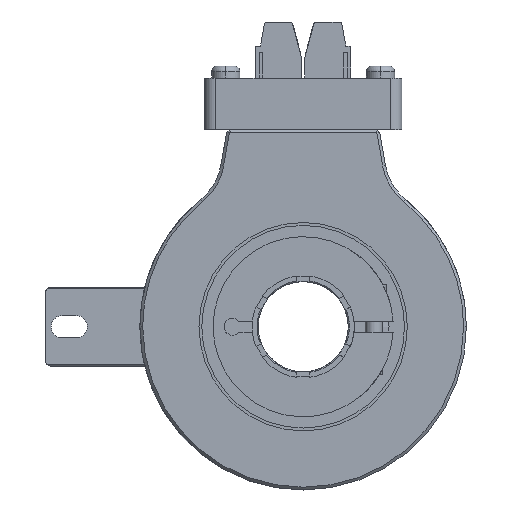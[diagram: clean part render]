
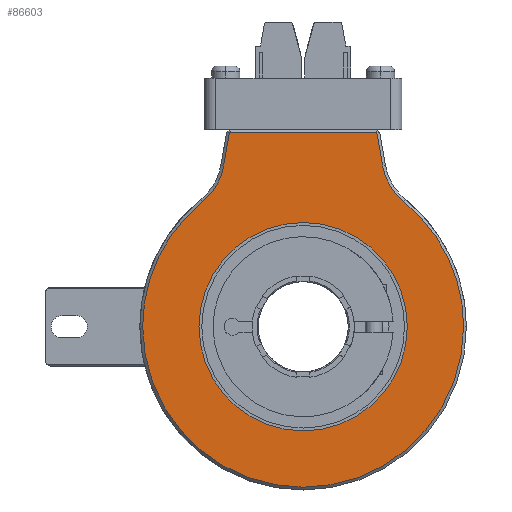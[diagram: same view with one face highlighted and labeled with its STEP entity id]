
A CAD part, left-side view. The second image highlights one B-rep face of the part: STEP entity #86603.
In plain terms, the highlighted planar face has unit normal (-1, 0, 0).
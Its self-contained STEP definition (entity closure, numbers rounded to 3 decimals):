
#126 = CIRCLE ( 'NONE', #86088, 28.5 ) ;
#1792 = ORIENTED_EDGE ( 'NONE', *, *, #42774, .T. ) ;
#4626 = DIRECTION ( 'NONE',  ( -1., 0., 0. ) ) ;
#4917 = CARTESIAN_POINT ( 'NONE',  ( -27., -18.5, 0. ) ) ;
#5710 = CARTESIAN_POINT ( 'NONE',  ( -27., 0., 0. ) ) ;
#6645 = AXIS2_PLACEMENT_3D ( 'NONE', #68694, #76194, #76676 ) ;
#6718 = AXIS2_PLACEMENT_3D ( 'NONE', #50017, #27124, #12168 ) ;
#7482 = CARTESIAN_POINT ( 'NONE',  ( -27., 0., 0. ) ) ;
#8178 = EDGE_CURVE ( 'NONE', #21539, #50496, #63558, .T. ) ;
#10104 = CARTESIAN_POINT ( 'NONE',  ( -27., 29., 0. ) ) ;
#10850 = EDGE_CURVE ( 'NONE', #76543, #13916, #24203, .T. ) ;
#11569 = FACE_BOUND ( 'NONE', #45106, .T. ) ;
#12168 = DIRECTION ( 'NONE',  ( 0., 1., 0. ) ) ;
#12201 = VERTEX_POINT ( 'NONE', #38044 ) ;
#13916 = VERTEX_POINT ( 'NONE', #4917 ) ;
#14729 = ORIENTED_EDGE ( 'NONE', *, *, #55839, .T. ) ;
#15691 = VERTEX_POINT ( 'NONE', #42702 ) ;
#17569 = FACE_OUTER_BOUND ( 'NONE', #79120, .T. ) ;
#17788 = EDGE_CURVE ( 'NONE', #27516, #18642, #79740, .T. ) ;
#18133 = DIRECTION ( 'NONE',  ( 0., 0.174, -0.985 ) ) ;
#18642 = VERTEX_POINT ( 'NONE', #76419 ) ;
#20513 = AXIS2_PLACEMENT_3D ( 'NONE', #10104, #41959, #33017 ) ;
#21539 = VERTEX_POINT ( 'NONE', #35933 ) ;
#21940 = DIRECTION ( 'NONE',  ( 0., -1., 0. ) ) ;
#24203 = CIRCLE ( 'NONE', #6718, 18.5 ) ;
#24357 = VECTOR ( 'NONE', #40594, 1000. ) ;
#25624 = CARTESIAN_POINT ( 'NONE',  ( -27., 19.46, -1.682 ) ) ;
#27124 = DIRECTION ( 'NONE',  ( 1., 0., 0. ) ) ;
#27516 = VERTEX_POINT ( 'NONE', #66142 ) ;
#29188 = DIRECTION ( 'NONE',  ( 0., -1., 0. ) ) ;
#31202 = VECTOR ( 'NONE', #46358, 1000. ) ;
#31605 = AXIS2_PLACEMENT_3D ( 'NONE', #5710, #36115, #66026 ) ;
#31643 = CARTESIAN_POINT ( 'NONE',  ( -27., 29., 34.5 ) ) ;
#32877 = CARTESIAN_POINT ( 'NONE',  ( -27., 24.471, 30.367 ) ) ;
#33017 = DIRECTION ( 'NONE',  ( 0., -1., 0. ) ) ;
#34679 = EDGE_CURVE ( 'NONE', #35987, #76888, #43274, .T. ) ;
#35933 = CARTESIAN_POINT ( 'NONE',  ( -27., 28.5, 0. ) ) ;
#35987 = VERTEX_POINT ( 'NONE', #40767 ) ;
#36115 = DIRECTION ( 'NONE',  ( 1., 0., 0. ) ) ;
#38044 = CARTESIAN_POINT ( 'NONE',  ( -27., 13.08, 34.5 ) ) ;
#40594 = DIRECTION ( 'NONE',  ( 0., 1., 0. ) ) ;
#40767 = CARTESIAN_POINT ( 'NONE',  ( -27., -17.883, 22.191 ) ) ;
#41959 = DIRECTION ( 'NONE',  ( -1., 0., 0. ) ) ;
#42702 = CARTESIAN_POINT ( 'NONE',  ( -27., -13.08, 34.5 ) ) ;
#42774 = EDGE_CURVE ( 'NONE', #13916, #76543, #49162, .T. ) ;
#43274 = CIRCLE ( 'NONE', #6645, 10.5 ) ;
#45106 = EDGE_LOOP ( 'NONE', ( #76680, #1792 ) ) ;
#45874 = CARTESIAN_POINT ( 'NONE',  ( -27., -17.711, 8.236 ) ) ;
#46277 = AXIS2_PLACEMENT_3D ( 'NONE', #32877, #78239, #48297 ) ;
#46358 = DIRECTION ( 'NONE',  ( 0., 0.174, 0.985 ) ) ;
#48297 = DIRECTION ( 'NONE',  ( 0., -1., 0. ) ) ;
#49162 = CIRCLE ( 'NONE', #31605, 18.5 ) ;
#50017 = CARTESIAN_POINT ( 'NONE',  ( -27., 0., 0. ) ) ;
#50496 = VERTEX_POINT ( 'NONE', #72969 ) ;
#52812 = DIRECTION ( 'NONE',  ( -1., 0., 0. ) ) ;
#55256 = ORIENTED_EDGE ( 'NONE', *, *, #8178, .T. ) ;
#55839 = EDGE_CURVE ( 'NONE', #15691, #12201, #61535, .T. ) ;
#55909 = ORIENTED_EDGE ( 'NONE', *, *, #34679, .T. ) ;
#56467 = CARTESIAN_POINT ( 'NONE',  ( -27., 0., 0. ) ) ;
#57754 = ORIENTED_EDGE ( 'NONE', *, *, #17788, .T. ) ;
#61535 = LINE ( 'NONE', #31643, #24357 ) ;
#62591 = CIRCLE ( 'NONE', #75353, 28.5 ) ;
#63558 = CIRCLE ( 'NONE', #84267, 28.5 ) ;
#64645 = EDGE_CURVE ( 'NONE', #12201, #27516, #73786, .T. ) ;
#64837 = EDGE_CURVE ( 'NONE', #50496, #35987, #126, .T. ) ;
#66026 = DIRECTION ( 'NONE',  ( 0., 1., 0. ) ) ;
#66142 = CARTESIAN_POINT ( 'NONE',  ( -27., 14.131, 28.544 ) ) ;
#68694 = CARTESIAN_POINT ( 'NONE',  ( -27., -24.471, 30.367 ) ) ;
#69782 = LINE ( 'NONE', #45874, #31202 ) ;
#72969 = CARTESIAN_POINT ( 'NONE',  ( -27., -28.5, 0. ) ) ;
#73786 = LINE ( 'NONE', #25624, #89211 ) ;
#74531 = CARTESIAN_POINT ( 'NONE',  ( -27., 0., 0. ) ) ;
#75353 = AXIS2_PLACEMENT_3D ( 'NONE', #74531, #82516, #29188 ) ;
#76194 = DIRECTION ( 'NONE',  ( 1., 0., 0. ) ) ;
#76419 = CARTESIAN_POINT ( 'NONE',  ( -27., 17.883, 22.191 ) ) ;
#76543 = VERTEX_POINT ( 'NONE', #95359 ) ;
#76676 = DIRECTION ( 'NONE',  ( 0., -1., 0. ) ) ;
#76680 = ORIENTED_EDGE ( 'NONE', *, *, #10850, .T. ) ;
#76888 = VERTEX_POINT ( 'NONE', #90846 ) ;
#77503 = EDGE_CURVE ( 'NONE', #18642, #21539, #62591, .T. ) ;
#78239 = DIRECTION ( 'NONE',  ( 1., 0., 0. ) ) ;
#78382 = PLANE ( 'NONE',  #20513 ) ;
#78951 = ORIENTED_EDGE ( 'NONE', *, *, #64837, .T. ) ;
#79120 = EDGE_LOOP ( 'NONE', ( #94995, #14729, #91446, #57754, #87241, #55256, #78951, #55909 ) ) ;
#79740 = CIRCLE ( 'NONE', #46277, 10.5 ) ;
#80389 = DIRECTION ( 'NONE',  ( 0., -1., 0. ) ) ;
#81909 = EDGE_CURVE ( 'NONE', #76888, #15691, #69782, .T. ) ;
#82516 = DIRECTION ( 'NONE',  ( -1., 0., 0. ) ) ;
#84267 = AXIS2_PLACEMENT_3D ( 'NONE', #56467, #4626, #80389 ) ;
#86088 = AXIS2_PLACEMENT_3D ( 'NONE', #7482, #52812, #21940 ) ;
#86603 = ADVANCED_FACE ( 'NONE', ( #17569, #11569 ), #78382, .T. ) ;
#87241 = ORIENTED_EDGE ( 'NONE', *, *, #77503, .T. ) ;
#89211 = VECTOR ( 'NONE', #18133, 1000. ) ;
#90846 = CARTESIAN_POINT ( 'NONE',  ( -27., -14.131, 28.544 ) ) ;
#91446 = ORIENTED_EDGE ( 'NONE', *, *, #64645, .T. ) ;
#94995 = ORIENTED_EDGE ( 'NONE', *, *, #81909, .T. ) ;
#95359 = CARTESIAN_POINT ( 'NONE',  ( -27., 18.5, 0. ) ) ;
